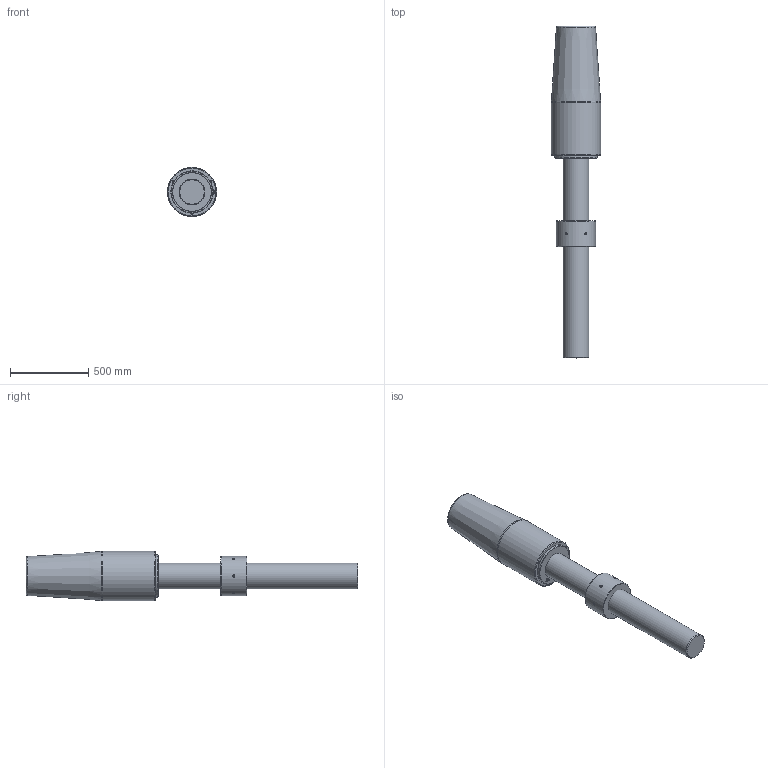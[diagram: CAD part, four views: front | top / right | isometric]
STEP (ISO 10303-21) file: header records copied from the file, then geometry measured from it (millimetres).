
FILE_DESCRIPTION(/* description */ (''),/* implementation_level */ '2;1');
FILE_NAME(/* name */ 'D:\Clienti\Redaelli (inventor)\CYB\STEP\Arrangement\CYB108 52 061 0.stp',/* time_stamp */ '2021-05-08T14:54:52+02:00',/* author */ ('fabri'),/* organization */ (''),/* preprocessor_version */ 'ST-DEVELOPER v16.13',/* originating_system */ 'Autodesk Inventor 2018',/* authorisation */ '');
FILE_SCHEMA (('AUTOMOTIVE_DESIGN { 1 0 10303 214 3 1 1 }'));
Length unit declared in the file: millimetre
Products named in the file (5): CYB108 52 061 0; RNT052 41 051 0_ROD; RNT052 41 051 0_ROD_1; CCY021-51-061-0_BUSH; CCY021-51-061-0
Assembly tree (4 placements, depth 2):
  CYB108 52 061 0
    RNT052 41 051 0_ROD
    RNT052 41 051 0_ROD_1
    CCY021-51-061-0_BUSH
    CCY021-51-061-0
Bounding box: 315 x 2121 x 315 mm (x, y, z)
Volume: 99583480.7 mm3; surface area: 2346608.4 mm2
Topology: 4 solids, 4 shells, 703 faces, 1872 edges, 1243 vertices
Faces by surface type: bspline 364, plane 301, cylinder 18, cone 16, torus 4
Full cylindrical faces by diameter (mm): 15 x6, 17.294 x3, 158.505 x2, 165 x1, 167 x1, 228 x1, 240 x1, 250 x1, 270 x1, 315 x1
Entity records: 23696 total; most frequent: CARTESIAN_POINT 8725, ORIENTED_EDGE 3646, EDGE_CURVE 1823, DIRECTION 1823, VERTEX_POINT 1233, LINE 1041, VECTOR 1041, EDGE_LOOP 812
